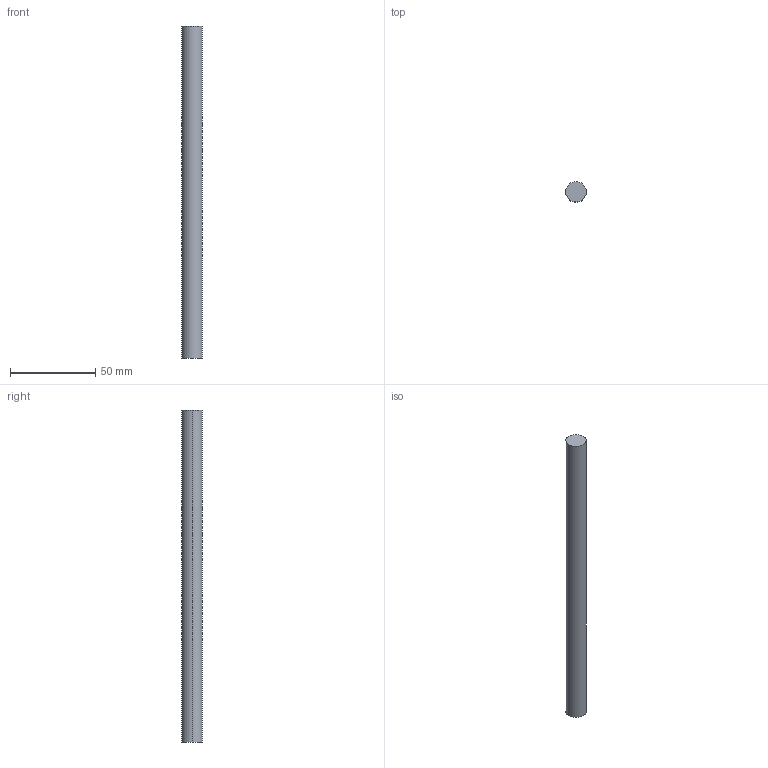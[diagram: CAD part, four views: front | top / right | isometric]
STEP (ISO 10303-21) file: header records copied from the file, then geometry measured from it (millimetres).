
FILE_DESCRIPTION (( 'STEP AP214' ), '1' );
FILE_NAME ('Magic Reling quer - S16_S17 - 300.step', '2010-09-07T14:56:05', ( 'grass' ), ( '' ), 'SwSTEP 2.0', 'SolidWorks 2010', '' );
FILE_SCHEMA (( 'AUTOMOTIVE_DESIGN' ));
Length unit declared in the file: millimetre
Products named in the file (1): Magic Reling quer - S16_S17 - 300
Bounding box: 12 x 12 x 195 mm (x, y, z)
Volume: 22054 mm3; surface area: 7577.5 mm2
Topology: 1 solids, 1 shells, 4 faces, 6 edges, 4 vertices
Faces by surface type: cylinder 2, plane 2
Entity records: 128 total; most frequent: DIRECTION 20, CARTESIAN_POINT 15, ORIENTED_EDGE 12, AXIS2_PLACEMENT_3D 9, EDGE_CURVE 6, EDGE_LOOP 4, FACE_OUTER_BOUND 4, CIRCLE 4
